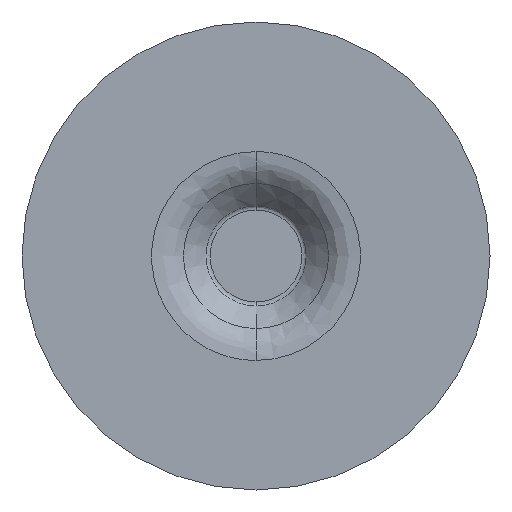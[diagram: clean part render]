
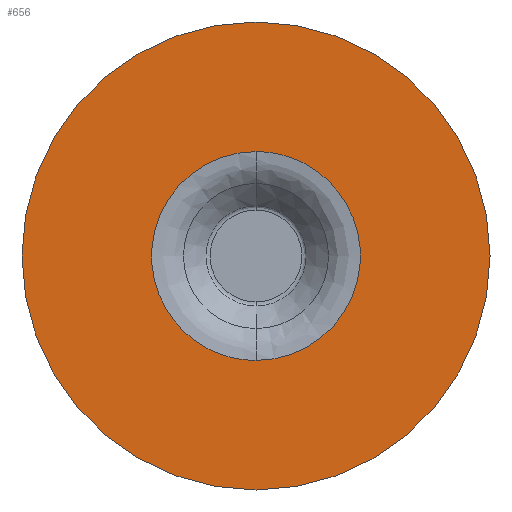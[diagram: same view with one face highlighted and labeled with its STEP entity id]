
A CAD part, front view. The second image highlights one B-rep face of the part: STEP entity #656.
In plain terms, the highlighted planar face has unit normal (0, -1, 0).
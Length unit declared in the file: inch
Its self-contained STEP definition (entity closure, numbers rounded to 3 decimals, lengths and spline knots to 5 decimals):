
#7 = CARTESIAN_POINT ( 'NONE',  ( 0., -0.204, -0.625 ) ) ;
#38 = CARTESIAN_POINT ( 'NONE',  ( 0.55767, -0.204, -0.27883 ) ) ;
#78 = CARTESIAN_POINT ( 'NONE',  ( 0., -0.204, 0. ) ) ;
#95 = VERTEX_POINT ( 'NONE', #7 ) ;
#99 = PLANE ( 'NONE',  #130 ) ;
#115 = CIRCLE ( 'NONE', #268, 0.625 ) ;
#130 = AXIS2_PLACEMENT_3D ( 'NONE', #481, #202, #307 ) ;
#137 = DIRECTION ( 'NONE',  ( 0., 0., 1. ) ) ;
#142 = DIRECTION ( 'NONE',  ( 0., 1., 0. ) ) ;
#156 = CARTESIAN_POINT ( 'NONE',  ( 0., -0.204, -0.27883 ) ) ;
#182 = CARTESIAN_POINT ( 'NONE',  ( 0., -0.204, -0.27883 ) ) ;
#201 = EDGE_LOOP ( 'NONE', ( #437, #587 ) ) ;
#202 = DIRECTION ( 'NONE',  ( 0., 1., 0. ) ) ;
#209 = EDGE_CURVE ( 'NONE', #524, #95, #115, .T. ) ;
#217 = VERTEX_POINT ( 'NONE', #539 ) ;
#243 = CARTESIAN_POINT ( 'NONE',  ( 0., -0.204, 0.625 ) ) ;
#255 = FACE_OUTER_BOUND ( 'NONE', #642, .T. ) ;
#268 = AXIS2_PLACEMENT_3D ( 'NONE', #633, #475, #644 ) ;
#278 = CARTESIAN_POINT ( 'NONE',  ( -0.55767, -0.204, 0.27883 ) ) ;
#304 = EDGE_CURVE ( 'NONE', #217, #314, #416, .T. ) ;
#307 = DIRECTION ( 'NONE',  ( 0., 0., 1. ) ) ;
#314 = VERTEX_POINT ( 'NONE', #544 ) ;
#351 =( BOUNDED_CURVE ( )  B_SPLINE_CURVE ( 3, ( #156, #38, #430, #697 ),
 .UNSPECIFIED., .F., .T. ) 
 B_SPLINE_CURVE_WITH_KNOTS ( ( 4, 4 ),
 ( 0., 1. ),
 .UNSPECIFIED. ) 
 CURVE ( )  GEOMETRIC_REPRESENTATION_ITEM ( )  RATIONAL_B_SPLINE_CURVE ( ( 1., 0.333, 0.333, 1. ) ) 
 REPRESENTATION_ITEM ( '' )  );
#373 = FACE_BOUND ( 'NONE', #201, .T. ) ;
#386 = CIRCLE ( 'NONE', #649, 0.625 ) ;
#416 =( BOUNDED_CURVE ( )  B_SPLINE_CURVE ( 3, ( #617, #278, #549, #182 ),
 .UNSPECIFIED., .F., .F. ) 
 B_SPLINE_CURVE_WITH_KNOTS ( ( 4, 4 ),
 ( 0., 1. ),
 .UNSPECIFIED. ) 
 CURVE ( )  GEOMETRIC_REPRESENTATION_ITEM ( )  RATIONAL_B_SPLINE_CURVE ( ( 1., 0.333, 0.333, 1. ) ) 
 REPRESENTATION_ITEM ( '' )  );
#426 = EDGE_CURVE ( 'NONE', #95, #524, #386, .T. ) ;
#430 = CARTESIAN_POINT ( 'NONE',  ( 0.55767, -0.204, 0.27883 ) ) ;
#437 = ORIENTED_EDGE ( 'NONE', *, *, #304, .F. ) ;
#475 = DIRECTION ( 'NONE',  ( 0., 1., 0. ) ) ;
#481 = CARTESIAN_POINT ( 'NONE',  ( 0.27883, -0.204, 0. ) ) ;
#524 = VERTEX_POINT ( 'NONE', #243 ) ;
#539 = CARTESIAN_POINT ( 'NONE',  ( 0., -0.204, 0.27883 ) ) ;
#544 = CARTESIAN_POINT ( 'NONE',  ( 0., -0.204, -0.27883 ) ) ;
#549 = CARTESIAN_POINT ( 'NONE',  ( -0.55767, -0.204, -0.27883 ) ) ;
#587 = ORIENTED_EDGE ( 'NONE', *, *, #686, .F. ) ;
#617 = CARTESIAN_POINT ( 'NONE',  ( 0., -0.204, 0.27883 ) ) ;
#633 = CARTESIAN_POINT ( 'NONE',  ( 0., -0.204, 0. ) ) ;
#642 = EDGE_LOOP ( 'NONE', ( #684, #668 ) ) ;
#644 = DIRECTION ( 'NONE',  ( 0., 0., 1. ) ) ;
#649 = AXIS2_PLACEMENT_3D ( 'NONE', #78, #142, #137 ) ;
#656 = ADVANCED_FACE ( 'NONE', ( #373, #255 ), #99, .F. ) ;
#668 = ORIENTED_EDGE ( 'NONE', *, *, #426, .F. ) ;
#684 = ORIENTED_EDGE ( 'NONE', *, *, #209, .F. ) ;
#686 = EDGE_CURVE ( 'NONE', #314, #217, #351, .T. ) ;
#697 = CARTESIAN_POINT ( 'NONE',  ( 0., -0.204, 0.27883 ) ) ;
